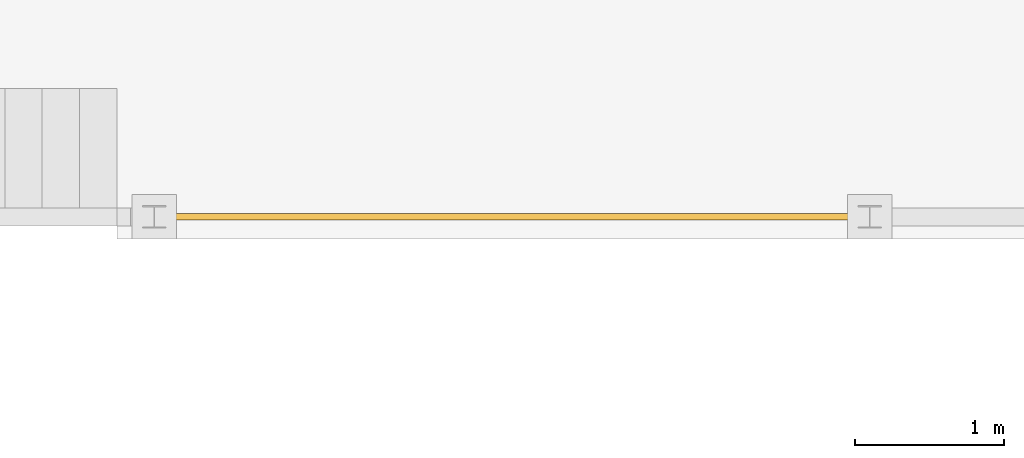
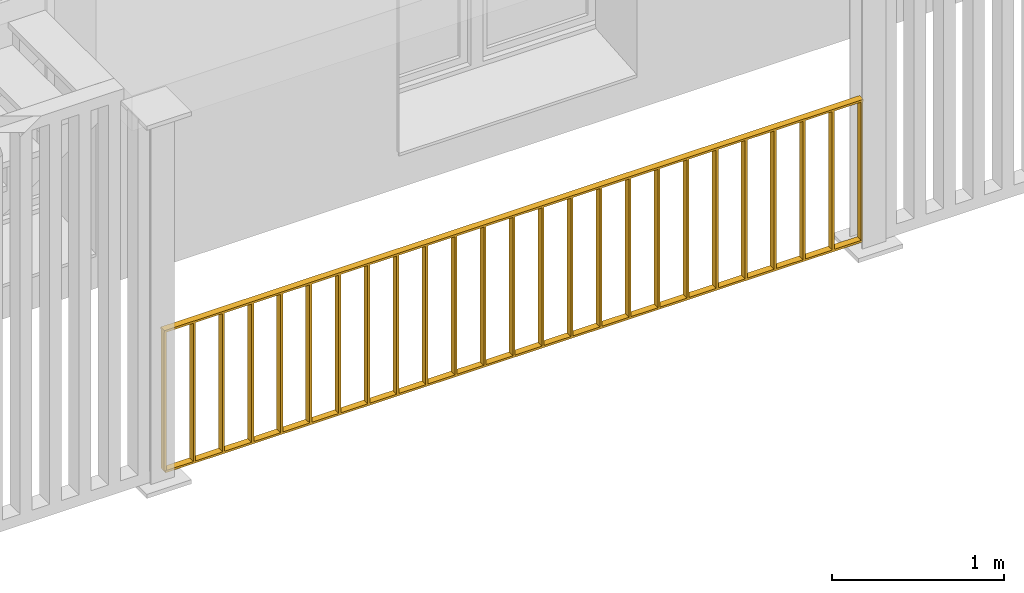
# One storey, part 27 of 34: 1 railing.
"""IFC4 building model written with IfcOpenShell, lengths in millimetres."""

from ifc_helpers import new_model, entity, si_unit, converted_unit, derived_unit, direction, frame, origin_with_axes, place, context, subcontext, project, spatial, polygons, material, constituent, constituent_set, type_object, element, save


model = new_model("IFC4")

# Units and contexts
model_context = context("Model", 3, precision=0.01, world=origin_with_axes(), true_north=direction((0.0, 1.0)))
body_context = subcontext(model_context, "Body", "Model", "MODEL_VIEW")
ifc_project = project(units=[si_unit("LENGTHUNIT", "METRE", prefix="MILLI"), si_unit("AREAUNIT", "SQUARE_METRE"), si_unit("VOLUMEUNIT", "CUBIC_METRE"), converted_unit("PLANEANGLEUNIT", "DEGREE", entity("IfcPlaneAngleMeasure", 0.0174532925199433), si_unit("PLANEANGLEUNIT", "RADIAN"), dimensions=[0, 0, 0, 0, 0, 0, 0]), converted_unit("TIMEUNIT", "Year", entity("IfcTimeMeasure", 31557600.0), si_unit("TIMEUNIT", "SECOND"), dimensions=[0, 0, 1, 0, 0, 0, 0]), si_unit("MASSUNIT", "GRAM", prefix="KILO"), si_unit("THERMODYNAMICTEMPERATUREUNIT", "DEGREE_CELSIUS"), si_unit("LUMINOUSINTENSITYUNIT", "LUMEN"), si_unit("ENERGYUNIT", "JOULE", prefix="MEGA"), derived_unit("THERMALCONDUCTANCEUNIT", [(si_unit("POWERUNIT", "WATT"), 1), (si_unit("LENGTHUNIT", "METRE"), -1), (si_unit("THERMODYNAMICTEMPERATUREUNIT", "KELVIN"), -1)]), derived_unit("SPECIFICHEATCAPACITYUNIT", [(si_unit("ENERGYUNIT", "JOULE"), 1), (si_unit("MASSUNIT", "GRAM", prefix="KILO"), -1), (si_unit("THERMODYNAMICTEMPERATUREUNIT", "KELVIN"), -1)]), derived_unit("MASSDENSITYUNIT", [(si_unit("MASSUNIT", "GRAM", prefix="KILO"), 1), (si_unit("VOLUMEUNIT", "CUBIC_METRE"), -1)])], contexts=[model_context])

# Site, building, storey
site_placement = place(None, origin_with_axes())
site = spatial("IfcSite", under=ifc_project, at=site_placement, Name="Gelände", CompositionType="ELEMENT")
building_placement = place(site_placement, origin_with_axes())
building = spatial("IfcBuilding", under=site, at=building_placement, Name="Gebäude", CompositionType="ELEMENT")
storey_placement = place(building_placement, frame((0.0, 0.0, 2900.0), z_axis=(0.0, 0.0, 1.0), x_axis=(1.0, 0.0, 0.0)))
storey = spatial("IfcBuildingStorey", under=building, at=storey_placement, Name="1.OG", CompositionType="ELEMENT", Elevation=2900.0)

# Railing
ifc_material = material(Name="Stahl")
ifc_constituent_1 = constituent(ifc_material, Name="Stahl 1")
ifc_constituent_2 = constituent(ifc_material, Name="Stahl 2")
ifc_constituent_3 = constituent(ifc_material, Name="Stahl 3")
ifc_constituent_4 = constituent(ifc_material, Name="Stahl 4")
ifc_constituent_5 = constituent(ifc_material, Name="Stahl 5")
ifc_constituent_6 = constituent(ifc_material, Name="Stahl 6")
ifc_constituent_7 = constituent(ifc_material, Name="Stahl 7")
ifc_constituent_8 = constituent(ifc_material, Name="Stahl 8")
ifc_constituent_9 = constituent(ifc_material, Name="Stahl 9")
ifc_constituent_10 = constituent(ifc_material, Name="Stahl 10")
ifc_constituent_11 = constituent(ifc_material, Name="Stahl 11")
ifc_constituent_12 = constituent(ifc_material, Name="Stahl 12")
ifc_constituent_13 = constituent(ifc_material, Name="Stahl 13")
ifc_constituent_14 = constituent(ifc_material, Name="Stahl 14")
ifc_constituent_15 = constituent(ifc_material, Name="Stahl 15")
ifc_constituent_16 = constituent(ifc_material, Name="Stahl 16")
ifc_constituent_17 = constituent(ifc_material, Name="Stahl 17")
ifc_constituent_18 = constituent(ifc_material, Name="Stahl 18")
ifc_constituent_19 = constituent(ifc_material, Name="Stahl 19")
ifc_constituent_20 = constituent(ifc_material, Name="Stahl 20")
ifc_constituent_21 = constituent(ifc_material, Name="Stahl 21")
ifc_constituent_22 = constituent(ifc_material, Name="Stahl 22")
ifc_constituent_23 = constituent(ifc_material, Name="Stahl 23")
ifc_constituent_24 = constituent(ifc_material, Name="Stahl 24")
ifc_constituent_25 = constituent(ifc_material, Name="Stahl 25")
ifc_constituent_26 = constituent(ifc_material, Name="Stahl 26")
ifc_constituent_27 = constituent(ifc_material, Name="Stahl 27")
ifc_constituent_28 = constituent(ifc_material, Name="Stahl 28")
ifc_constituent_29 = constituent(ifc_material, Name="Stahl 29")
ifc_constituent_set = constituent_set(constituents=[ifc_constituent_1, ifc_constituent_2, ifc_constituent_3, ifc_constituent_4, ifc_constituent_5, ifc_constituent_6, ifc_constituent_7, ifc_constituent_8, ifc_constituent_9, ifc_constituent_10, ifc_constituent_11, ifc_constituent_12, ifc_constituent_13, ifc_constituent_14, ifc_constituent_15, ifc_constituent_16, ifc_constituent_17, ifc_constituent_18, ifc_constituent_19, ifc_constituent_20, ifc_constituent_21, ifc_constituent_22, ifc_constituent_23, ifc_constituent_24, ifc_constituent_25, ifc_constituent_26, ifc_constituent_27, ifc_constituent_28, ifc_constituent_29])
railing_type = type_object("IfcRailingType", Name="Geländerart", PredefinedType="NOTDEFINED")
railing_placement = place(storey_placement, frame((5767.336356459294, 21097.59674077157, 49.99994801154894), z_axis=(0.0, 0.0, 1.0), x_axis=(1.0, 0.0, 0.0)))
element("IfcRailing", 1, at=railing_placement, inside=storey, type_object=railing_type, material=ifc_constituent_set, Name="Geländer-003", PredefinedType="NOTDEFINED", context=body_context, shape_type="Tessellation", body=[
    polygons([(196.5594620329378, -19.99999999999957, 0.0), (196.5594620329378, 19.99999999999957, 0.0), (196.5594620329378, 19.99999999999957, 1000.0), (196.5594620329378, -19.99999999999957, 1000.0), (181.5594620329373, -19.99999999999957, 0.0), (181.5594620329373, 19.99999999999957, 0.0), (181.5594620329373, 19.99999999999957, 1000.0), (181.5594620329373, -19.99999999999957, 1000.0)], [[[1, 2, 3, 4]], [[1, 5, 6, 2]], [[2, 6, 7, 3]], [[4, 3, 7, 8]], [[5, 1, 4, 8]], [[6, 5, 8, 7]]], closed=True),
    polygons([(189.0594620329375, 22.50000000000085, 1000.0), (189.0594620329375, 22.50000000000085, 984.9999999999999), (181.5594620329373, 22.50000000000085, 984.9999999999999), (181.5594620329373, 22.50000000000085, 1000.0), (189.0594620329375, -22.50000000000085, 1000.0), (189.0594620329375, -22.50000000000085, 984.9999999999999), (181.5594620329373, -22.50000000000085, 984.9999999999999), (181.5594620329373, -22.50000000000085, 1000.0)], [[[1, 2, 3, 4]], [[1, 5, 6, 2]], [[2, 6, 7, 3]], [[4, 3, 7, 8]], [[5, 1, 4, 8]], [[6, 5, 8, 7]]], closed=True),
    polygons([(4887.359462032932, -19.99999999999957, 0.0), (4887.359462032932, 19.99999999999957, 0.0), (4887.359462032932, 19.99999999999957, 1000.0), (4887.359462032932, -19.99999999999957, 1000.0), (4872.359462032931, -19.99999999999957, 0.0), (4872.359462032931, 19.99999999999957, 0.0), (4872.359462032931, 19.99999999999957, 1000.0), (4872.359462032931, -19.99999999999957, 1000.0)], [[[1, 2, 3, 4]], [[1, 5, 6, 2]], [[2, 6, 7, 3]], [[4, 3, 7, 8]], [[5, 1, 4, 8]], [[6, 5, 8, 7]]], closed=True),
    polygons([(4879.859462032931, -22.50000000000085, 1000.0), (4879.859462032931, -22.50000000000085, 984.9999999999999), (4887.359462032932, -22.50000000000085, 984.9999999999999), (4887.359462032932, -22.50000000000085, 1000.0), (4879.859462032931, 22.50000000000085, 1000.0), (4879.859462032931, 22.50000000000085, 984.9999999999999), (4887.359462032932, 22.50000000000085, 984.9999999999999), (4887.359462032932, 22.50000000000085, 1000.0)], [[[1, 2, 3, 4]], [[1, 5, 6, 2]], [[2, 6, 7, 3]], [[4, 3, 7, 8]], [[5, 1, 4, 8]], [[6, 5, 8, 7]]], closed=True),
    polygons([(189.0594620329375, -22.50000000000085, 0.9999999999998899), (189.0594620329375, -22.50000000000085, -14.00000000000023), (4879.859462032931, -22.50000000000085, -14.00000000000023), (4879.859462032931, -22.50000000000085, 0.9999999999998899), (189.0594620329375, 22.50000000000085, 0.9999999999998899), (189.0594620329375, 22.50000000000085, -14.00000000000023), (4879.859462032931, 22.50000000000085, -14.00000000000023), (4879.859462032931, 22.50000000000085, 0.9999999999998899)], [[[1, 2, 3, 4]], [[1, 5, 6, 2]], [[2, 6, 7, 3]], [[4, 3, 7, 8]], [[5, 1, 4, 8]], [[6, 5, 8, 7]]], closed=True),
    polygons([(189.0594620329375, -22.50000000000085, 1000.0), (189.0594620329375, -22.50000000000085, 984.9999999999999), (4879.859462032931, -22.50000000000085, 984.9999999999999), (4879.859462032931, -22.50000000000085, 1000.0), (189.0594620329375, 22.50000000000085, 1000.0), (189.0594620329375, 22.50000000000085, 984.9999999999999), (4879.859462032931, 22.50000000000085, 984.9999999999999), (4879.859462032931, 22.50000000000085, 1000.0)], [[[1, 2, 3, 4]], [[1, 5, 6, 2]], [[2, 6, 7, 3]], [[4, 3, 7, 8]], [[5, 1, 4, 8]], [[6, 5, 8, 7]]], closed=True),
    polygons([(392.009462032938, -22.50000000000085, 0.0), (392.009462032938, 22.50000000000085, 0.0), (392.009462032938, 22.50000000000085, 985.2293691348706), (392.009462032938, -22.50000000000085, 985.2293691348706), (377.0094620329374, -22.50000000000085, 0.0), (377.0094620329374, 22.50000000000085, 0.0), (377.0094620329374, 22.50000000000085, 985.2293691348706), (377.0094620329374, -22.50000000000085, 985.2293691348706)], [[[1, 2, 3, 4]], [[1, 5, 6, 2]], [[2, 6, 7, 3]], [[4, 3, 7, 8]], [[5, 1, 4, 8]], [[6, 5, 8, 7]]], closed=True),
    polygons([(587.4594620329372, -22.50000000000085, 0.0), (587.4594620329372, 22.50000000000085, 0.0), (587.4594620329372, 22.50000000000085, 985.2293691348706), (587.4594620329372, -22.50000000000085, 985.2293691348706), (572.4594620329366, -22.50000000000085, 0.0), (572.4594620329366, 22.50000000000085, 0.0), (572.4594620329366, 22.50000000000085, 985.2293691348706), (572.4594620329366, -22.50000000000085, 985.2293691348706)], [[[1, 2, 3, 4]], [[1, 5, 6, 2]], [[2, 6, 7, 3]], [[4, 3, 7, 8]], [[5, 1, 4, 8]], [[6, 5, 8, 7]]], closed=True),
    polygons([(782.9094620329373, -22.50000000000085, 0.0), (782.9094620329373, 22.50000000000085, 0.0), (782.9094620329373, 22.50000000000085, 985.2293691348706), (782.9094620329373, -22.50000000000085, 985.2293691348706), (767.9094620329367, -22.50000000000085, 0.0), (767.9094620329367, 22.50000000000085, 0.0), (767.9094620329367, 22.50000000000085, 985.2293691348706), (767.9094620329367, -22.50000000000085, 985.2293691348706)], [[[1, 2, 3, 4]], [[1, 5, 6, 2]], [[2, 6, 7, 3]], [[4, 3, 7, 8]], [[5, 1, 4, 8]], [[6, 5, 8, 7]]], closed=True),
    polygons([(978.3594620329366, -22.50000000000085, 0.0), (978.3594620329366, 22.50000000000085, 0.0), (978.3594620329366, 22.50000000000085, 985.2293691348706), (978.3594620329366, -22.50000000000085, 985.2293691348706), (963.359462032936, -22.50000000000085, 0.0), (963.359462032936, 22.50000000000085, 0.0), (963.359462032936, 22.50000000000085, 985.2293691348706), (963.359462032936, -22.50000000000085, 985.2293691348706)], [[[1, 2, 3, 4]], [[1, 5, 6, 2]], [[2, 6, 7, 3]], [[4, 3, 7, 8]], [[5, 1, 4, 8]], [[6, 5, 8, 7]]], closed=True),
    polygons([(1173.809462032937, -22.50000000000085, 0.0), (1173.809462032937, 22.50000000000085, 0.0), (1173.809462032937, 22.50000000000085, 985.2293691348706), (1173.809462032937, -22.50000000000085, 985.2293691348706), (1158.809462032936, -22.50000000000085, 0.0), (1158.809462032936, 22.50000000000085, 0.0), (1158.809462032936, 22.50000000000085, 985.2293691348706), (1158.809462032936, -22.50000000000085, 985.2293691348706)], [[[1, 2, 3, 4]], [[1, 5, 6, 2]], [[2, 6, 7, 3]], [[4, 3, 7, 8]], [[5, 1, 4, 8]], [[6, 5, 8, 7]]], closed=True),
    polygons([(1369.259462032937, -22.50000000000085, 0.0), (1369.259462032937, 22.50000000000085, 0.0), (1369.259462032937, 22.50000000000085, 985.2293691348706), (1369.259462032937, -22.50000000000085, 985.2293691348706), (1354.259462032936, -22.50000000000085, 0.0), (1354.259462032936, 22.50000000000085, 0.0), (1354.259462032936, 22.50000000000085, 985.2293691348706), (1354.259462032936, -22.50000000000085, 985.2293691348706)], [[[1, 2, 3, 4]], [[1, 5, 6, 2]], [[2, 6, 7, 3]], [[4, 3, 7, 8]], [[5, 1, 4, 8]], [[6, 5, 8, 7]]], closed=True),
    polygons([(1564.709462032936, -22.50000000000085, 0.0), (1564.709462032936, 22.50000000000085, 0.0), (1564.709462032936, 22.50000000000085, 985.2293691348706), (1564.709462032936, -22.50000000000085, 985.2293691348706), (1549.709462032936, -22.50000000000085, 0.0), (1549.709462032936, 22.50000000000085, 0.0), (1549.709462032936, 22.50000000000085, 985.2293691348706), (1549.709462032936, -22.50000000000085, 985.2293691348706)], [[[1, 2, 3, 4]], [[1, 5, 6, 2]], [[2, 6, 7, 3]], [[4, 3, 7, 8]], [[5, 1, 4, 8]], [[6, 5, 8, 7]]], closed=True),
    polygons([(1760.159462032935, -22.50000000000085, 0.0), (1760.159462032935, 22.50000000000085, 0.0), (1760.159462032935, 22.50000000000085, 985.2293691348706), (1760.159462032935, -22.50000000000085, 985.2293691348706), (1745.159462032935, -22.50000000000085, 0.0), (1745.159462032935, 22.50000000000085, 0.0), (1745.159462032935, 22.50000000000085, 985.2293691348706), (1745.159462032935, -22.50000000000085, 985.2293691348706)], [[[1, 2, 3, 4]], [[1, 5, 6, 2]], [[2, 6, 7, 3]], [[4, 3, 7, 8]], [[5, 1, 4, 8]], [[6, 5, 8, 7]]], closed=True),
    polygons([(1955.609462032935, -22.50000000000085, 0.0), (1955.609462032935, 22.50000000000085, 0.0), (1955.609462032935, 22.50000000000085, 985.2293691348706), (1955.609462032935, -22.50000000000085, 985.2293691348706), (1940.609462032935, -22.50000000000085, 0.0), (1940.609462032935, 22.50000000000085, 0.0), (1940.609462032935, 22.50000000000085, 985.2293691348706), (1940.609462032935, -22.50000000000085, 985.2293691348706)], [[[1, 2, 3, 4]], [[1, 5, 6, 2]], [[2, 6, 7, 3]], [[4, 3, 7, 8]], [[5, 1, 4, 8]], [[6, 5, 8, 7]]], closed=True),
    polygons([(2151.059462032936, -22.50000000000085, 0.0), (2151.059462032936, 22.50000000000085, 0.0), (2151.059462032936, 22.50000000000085, 985.2293691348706), (2151.059462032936, -22.50000000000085, 985.2293691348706), (2136.059462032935, -22.50000000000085, 0.0), (2136.059462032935, 22.50000000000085, 0.0), (2136.059462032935, 22.50000000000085, 985.2293691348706), (2136.059462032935, -22.50000000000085, 985.2293691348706)], [[[1, 2, 3, 4]], [[1, 5, 6, 2]], [[2, 6, 7, 3]], [[4, 3, 7, 8]], [[5, 1, 4, 8]], [[6, 5, 8, 7]]], closed=True),
    polygons([(2346.509462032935, -22.50000000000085, 0.0), (2346.509462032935, 22.50000000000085, 0.0), (2346.509462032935, 22.50000000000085, 985.2293691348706), (2346.509462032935, -22.50000000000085, 985.2293691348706), (2331.509462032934, -22.50000000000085, 0.0), (2331.509462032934, 22.50000000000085, 0.0), (2331.509462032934, 22.50000000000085, 985.2293691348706), (2331.509462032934, -22.50000000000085, 985.2293691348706)], [[[1, 2, 3, 4]], [[1, 5, 6, 2]], [[2, 6, 7, 3]], [[4, 3, 7, 8]], [[5, 1, 4, 8]], [[6, 5, 8, 7]]], closed=True),
    polygons([(2541.959462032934, -22.50000000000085, 0.0), (2541.959462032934, 22.50000000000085, 0.0), (2541.959462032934, 22.50000000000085, 985.2293691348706), (2541.959462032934, -22.50000000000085, 985.2293691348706), (2526.959462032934, -22.50000000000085, 0.0), (2526.959462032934, 22.50000000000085, 0.0), (2526.959462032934, 22.50000000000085, 985.2293691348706), (2526.959462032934, -22.50000000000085, 985.2293691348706)], [[[1, 2, 3, 4]], [[1, 5, 6, 2]], [[2, 6, 7, 3]], [[4, 3, 7, 8]], [[5, 1, 4, 8]], [[6, 5, 8, 7]]], closed=True),
    polygons([(2737.409462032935, -22.50000000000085, 0.0), (2737.409462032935, 22.50000000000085, 0.0), (2737.409462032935, 22.50000000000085, 985.2293691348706), (2737.409462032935, -22.50000000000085, 985.2293691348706), (2722.409462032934, -22.50000000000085, 0.0), (2722.409462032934, 22.50000000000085, 0.0), (2722.409462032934, 22.50000000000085, 985.2293691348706), (2722.409462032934, -22.50000000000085, 985.2293691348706)], [[[1, 2, 3, 4]], [[1, 5, 6, 2]], [[2, 6, 7, 3]], [[4, 3, 7, 8]], [[5, 1, 4, 8]], [[6, 5, 8, 7]]], closed=True),
    polygons([(2932.859462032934, -22.50000000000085, 0.0), (2932.859462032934, 22.50000000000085, 0.0), (2932.859462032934, 22.50000000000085, 985.2293691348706), (2932.859462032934, -22.50000000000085, 985.2293691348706), (2917.859462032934, -22.50000000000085, 0.0), (2917.859462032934, 22.50000000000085, 0.0), (2917.859462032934, 22.50000000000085, 985.2293691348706), (2917.859462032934, -22.50000000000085, 985.2293691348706)], [[[1, 2, 3, 4]], [[1, 5, 6, 2]], [[2, 6, 7, 3]], [[4, 3, 7, 8]], [[5, 1, 4, 8]], [[6, 5, 8, 7]]], closed=True),
    polygons([(3128.309462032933, -22.50000000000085, 0.0), (3128.309462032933, 22.50000000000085, 0.0), (3128.309462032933, 22.50000000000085, 985.2293691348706), (3128.309462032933, -22.50000000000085, 985.2293691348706), (3113.309462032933, -22.50000000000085, 0.0), (3113.309462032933, 22.50000000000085, 0.0), (3113.309462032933, 22.50000000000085, 985.2293691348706), (3113.309462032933, -22.50000000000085, 985.2293691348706)], [[[1, 2, 3, 4]], [[1, 5, 6, 2]], [[2, 6, 7, 3]], [[4, 3, 7, 8]], [[5, 1, 4, 8]], [[6, 5, 8, 7]]], closed=True),
    polygons([(3323.759462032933, -22.50000000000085, 0.0), (3323.759462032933, 22.50000000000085, 0.0), (3323.759462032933, 22.50000000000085, 985.2293691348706), (3323.759462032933, -22.50000000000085, 985.2293691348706), (3308.759462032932, -22.50000000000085, 0.0), (3308.759462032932, 22.50000000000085, 0.0), (3308.759462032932, 22.50000000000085, 985.2293691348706), (3308.759462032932, -22.50000000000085, 985.2293691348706)], [[[1, 2, 3, 4]], [[1, 5, 6, 2]], [[2, 6, 7, 3]], [[4, 3, 7, 8]], [[5, 1, 4, 8]], [[6, 5, 8, 7]]], closed=True),
    polygons([(3519.209462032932, -22.50000000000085, 0.0), (3519.209462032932, 22.50000000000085, 0.0), (3519.209462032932, 22.50000000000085, 985.2293691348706), (3519.209462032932, -22.50000000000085, 985.2293691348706), (3504.209462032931, -22.50000000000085, 0.0), (3504.209462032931, 22.50000000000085, 0.0), (3504.209462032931, 22.50000000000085, 985.2293691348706), (3504.209462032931, -22.50000000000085, 985.2293691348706)], [[[1, 2, 3, 4]], [[1, 5, 6, 2]], [[2, 6, 7, 3]], [[4, 3, 7, 8]], [[5, 1, 4, 8]], [[6, 5, 8, 7]]], closed=True),
    polygons([(3714.659462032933, -22.50000000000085, 0.0), (3714.659462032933, 22.50000000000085, 0.0), (3714.659462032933, 22.50000000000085, 985.2293691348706), (3714.659462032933, -22.50000000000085, 985.2293691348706), (3699.659462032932, -22.50000000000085, 0.0), (3699.659462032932, 22.50000000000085, 0.0), (3699.659462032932, 22.50000000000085, 985.2293691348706), (3699.659462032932, -22.50000000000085, 985.2293691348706)], [[[1, 2, 3, 4]], [[1, 5, 6, 2]], [[2, 6, 7, 3]], [[4, 3, 7, 8]], [[5, 1, 4, 8]], [[6, 5, 8, 7]]], closed=True),
    polygons([(3910.109462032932, -22.50000000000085, 0.0), (3910.109462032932, 22.50000000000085, 0.0), (3910.109462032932, 22.50000000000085, 985.2293691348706), (3910.109462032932, -22.50000000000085, 985.2293691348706), (3895.109462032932, -22.50000000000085, 0.0), (3895.109462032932, 22.50000000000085, 0.0), (3895.109462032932, 22.50000000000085, 985.2293691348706), (3895.109462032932, -22.50000000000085, 985.2293691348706)], [[[1, 2, 3, 4]], [[1, 5, 6, 2]], [[2, 6, 7, 3]], [[4, 3, 7, 8]], [[5, 1, 4, 8]], [[6, 5, 8, 7]]], closed=True),
    polygons([(4105.559462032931, -22.50000000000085, 0.0), (4105.559462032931, 22.50000000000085, 0.0), (4105.559462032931, 22.50000000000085, 985.2293691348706), (4105.559462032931, -22.50000000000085, 985.2293691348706), (4090.559462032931, -22.50000000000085, 0.0), (4090.559462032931, 22.50000000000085, 0.0), (4090.559462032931, 22.50000000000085, 985.2293691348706), (4090.559462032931, -22.50000000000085, 985.2293691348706)], [[[1, 2, 3, 4]], [[1, 5, 6, 2]], [[2, 6, 7, 3]], [[4, 3, 7, 8]], [[5, 1, 4, 8]], [[6, 5, 8, 7]]], closed=True),
    polygons([(4301.009462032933, -22.50000000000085, 0.0), (4301.009462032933, 22.50000000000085, 0.0), (4301.009462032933, 22.50000000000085, 985.2293691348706), (4301.009462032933, -22.50000000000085, 985.2293691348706), (4286.009462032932, -22.50000000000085, 0.0), (4286.009462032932, 22.50000000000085, 0.0), (4286.009462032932, 22.50000000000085, 985.2293691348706), (4286.009462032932, -22.50000000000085, 985.2293691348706)], [[[1, 2, 3, 4]], [[1, 5, 6, 2]], [[2, 6, 7, 3]], [[4, 3, 7, 8]], [[5, 1, 4, 8]], [[6, 5, 8, 7]]], closed=True),
    polygons([(4496.459462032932, -22.50000000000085, 0.0), (4496.459462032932, 22.50000000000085, 0.0), (4496.459462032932, 22.50000000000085, 985.2293691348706), (4496.459462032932, -22.50000000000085, 985.2293691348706), (4481.459462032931, -22.50000000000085, 0.0), (4481.459462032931, 22.50000000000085, 0.0), (4481.459462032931, 22.50000000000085, 985.2293691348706), (4481.459462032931, -22.50000000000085, 985.2293691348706)], [[[1, 2, 3, 4]], [[1, 5, 6, 2]], [[2, 6, 7, 3]], [[4, 3, 7, 8]], [[5, 1, 4, 8]], [[6, 5, 8, 7]]], closed=True),
    polygons([(4691.909462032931, -22.50000000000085, 0.0), (4691.909462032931, 22.50000000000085, 0.0), (4691.909462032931, 22.50000000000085, 985.2293691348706), (4691.909462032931, -22.50000000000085, 985.2293691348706), (4676.909462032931, -22.50000000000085, 0.0), (4676.909462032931, 22.50000000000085, 0.0), (4676.909462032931, 22.50000000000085, 985.2293691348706), (4676.909462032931, -22.50000000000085, 985.2293691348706)], [[[1, 2, 3, 4]], [[1, 5, 6, 2]], [[2, 6, 7, 3]], [[4, 3, 7, 8]], [[5, 1, 4, 8]], [[6, 5, 8, 7]]], closed=True),
])

save(model, "model.ifc")
